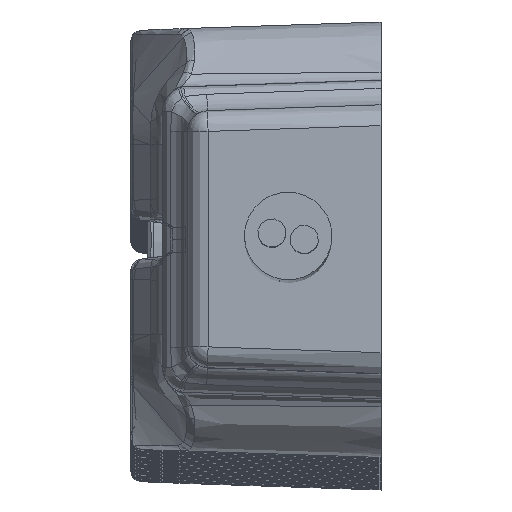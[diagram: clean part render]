
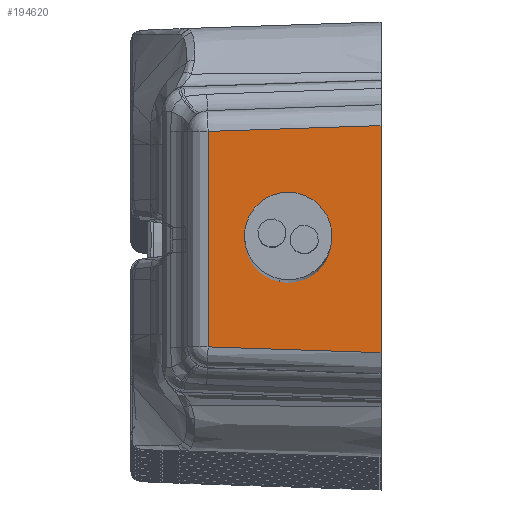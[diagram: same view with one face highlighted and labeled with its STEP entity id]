
A CAD part, top view. The second image highlights one B-rep face of the part: STEP entity #194620.
In plain terms, the highlighted planar face has unit normal (0, 0, 1).
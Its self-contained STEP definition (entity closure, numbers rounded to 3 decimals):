
#17229 = CARTESIAN_POINT ( 'NONE',  ( -3.987, -10.745, 159.5 ) ) ;
#28627 = DIRECTION ( 'NONE',  ( 0., 0., 1. ) ) ;
#34775 = CARTESIAN_POINT ( 'NONE',  ( -4.02, -11.745, 159.5 ) ) ;
#36826 = VECTOR ( 'NONE', #49071, 1000. ) ;
#38083 = EDGE_CURVE ( 'NONE', #210495, #172472, #135918, .T. ) ;
#49071 = DIRECTION ( 'NONE',  ( 0., -1., 0. ) ) ;
#50163 = EDGE_LOOP ( 'NONE', ( #74515, #193307, #117316, #67653 ) ) ;
#59653 = DIRECTION ( 'NONE',  ( 0.999, -0.033, 0. ) ) ;
#67653 = ORIENTED_EDGE ( 'NONE', *, *, #132190, .T. ) ;
#71050 = CARTESIAN_POINT ( 'NONE',  ( -12.32, -0.123, 159.5 ) ) ;
#74515 = ORIENTED_EDGE ( 'NONE', *, *, #251548, .T. ) ;
#74658 = EDGE_CURVE ( 'NONE', #172472, #160388, #90299, .T. ) ;
#76975 = LINE ( 'NONE', #17229, #176692 ) ;
#78532 = LINE ( 'NONE', #34775, #256419 ) ;
#86487 = AXIS2_PLACEMENT_3D ( 'NONE', #71050, #28627, #168081 ) ;
#89726 = FACE_OUTER_BOUND ( 'NONE', #50163, .T. ) ;
#90299 = LINE ( 'NONE', #231016, #36826 ) ;
#97406 = CARTESIAN_POINT ( 'NONE',  ( -12.32, -0.123, 159.5 ) ) ;
#103572 = CARTESIAN_POINT ( 'NONE',  ( -12.32, -10.467, 159.5 ) ) ;
#117316 = ORIENTED_EDGE ( 'NONE', *, *, #74658, .T. ) ;
#119809 = VECTOR ( 'NONE', #254126, 1000. ) ;
#132190 = EDGE_CURVE ( 'NONE', #160388, #250985, #76975, .T. ) ;
#135918 = LINE ( 'NONE', #97406, #119809 ) ;
#141820 = CARTESIAN_POINT ( 'NONE',  ( -4.02, 0.153, 159.5 ) ) ;
#160388 = VERTEX_POINT ( 'NONE', #103572 ) ;
#168081 = DIRECTION ( 'NONE',  ( 1., 0., 0. ) ) ;
#172472 = VERTEX_POINT ( 'NONE', #231969 ) ;
#176692 = VECTOR ( 'NONE', #59653, 1000. ) ;
#178616 = CARTESIAN_POINT ( 'NONE',  ( -4.02, -10.744, 159.5 ) ) ;
#193307 = ORIENTED_EDGE ( 'NONE', *, *, #38083, .T. ) ;
#194620 = ADVANCED_FACE ( 'NONE', ( #89726 ), #251645, .T. ) ;
#210495 = VERTEX_POINT ( 'NONE', #141820 ) ;
#220624 = DIRECTION ( 'NONE',  ( 0., 1., 0. ) ) ;
#231016 = CARTESIAN_POINT ( 'NONE',  ( -12.32, -10.467, 159.5 ) ) ;
#231969 = CARTESIAN_POINT ( 'NONE',  ( -12.32, -0.123, 159.5 ) ) ;
#250985 = VERTEX_POINT ( 'NONE', #178616 ) ;
#251548 = EDGE_CURVE ( 'NONE', #250985, #210495, #78532, .T. ) ;
#251645 = PLANE ( 'NONE',  #86487 ) ;
#254126 = DIRECTION ( 'NONE',  ( -0.999, -0.033, 0. ) ) ;
#256419 = VECTOR ( 'NONE', #220624, 1000. ) ;
